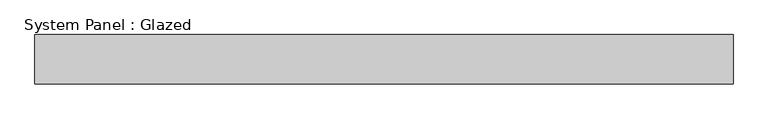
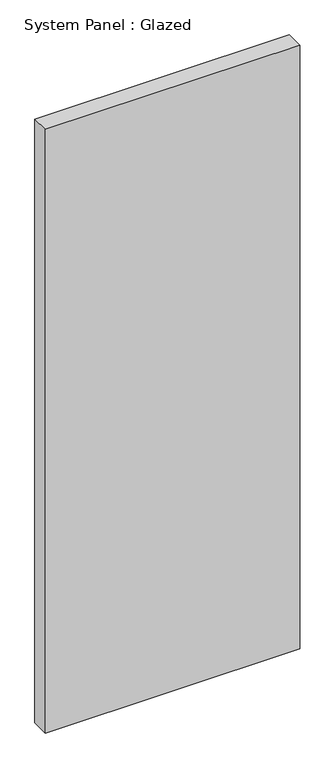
"""IFC4 building model written with IfcOpenShell, lengths in millimetres: plate geometry, System Panel : Glazed."""

from ifc_helpers import new_model, si_unit, origin, origin_with_axes, place, context, project, spatial, polyline, outline, extrude, source, transform, mapped, element, save


def system_panel_glazed_24260f19(model_context):
    return source(origin(), model_context, "Body", "SweptSolid", [
        extrude(outline(polyline([(707.8000001, 50.0), (-707.8000001, 50.0), (-707.8000001, 150.0), (707.8000001, 150.0), (707.8000001, 50.0)])), origin_with_axes(), (0.0, 0.0, 1.0), 3550.0),
    ])


if __name__ == "__main__":
    model = new_model("IFC4")
    model_context = context("Model", 3, world=origin())
    ifc_project = project(units=[si_unit("LENGTHUNIT", "METRE", prefix="MILLI")], contexts=[model_context])
    site = spatial("IfcSite", under=ifc_project)
    building = spatial("IfcBuilding", under=site)
    placement = place(None, origin())
    system_panel_glazed_shape = system_panel_glazed_24260f19(model_context)
    element("IfcPlate", 1, ObjectType="System Panel : Glazed", at=placement, inside=building, context=model_context, shape_type="MappedRepresentation", body=[
        mapped(system_panel_glazed_shape, transform((0.0, 0.0, 0.0), x_axis=(1.0, 0.0, 0.0), y_axis=(0.0, 1.0, 0.0), z_axis=(0.0, 0.0, 1.0))),
    ])
    save(model, "model.ifc")
